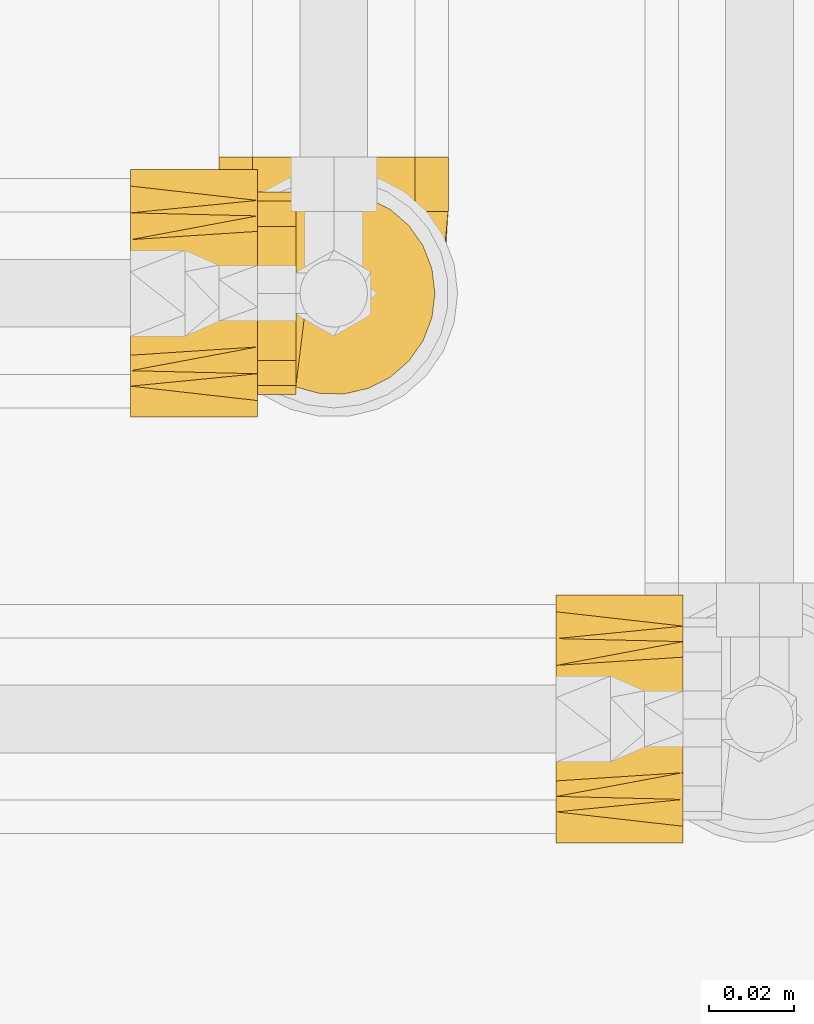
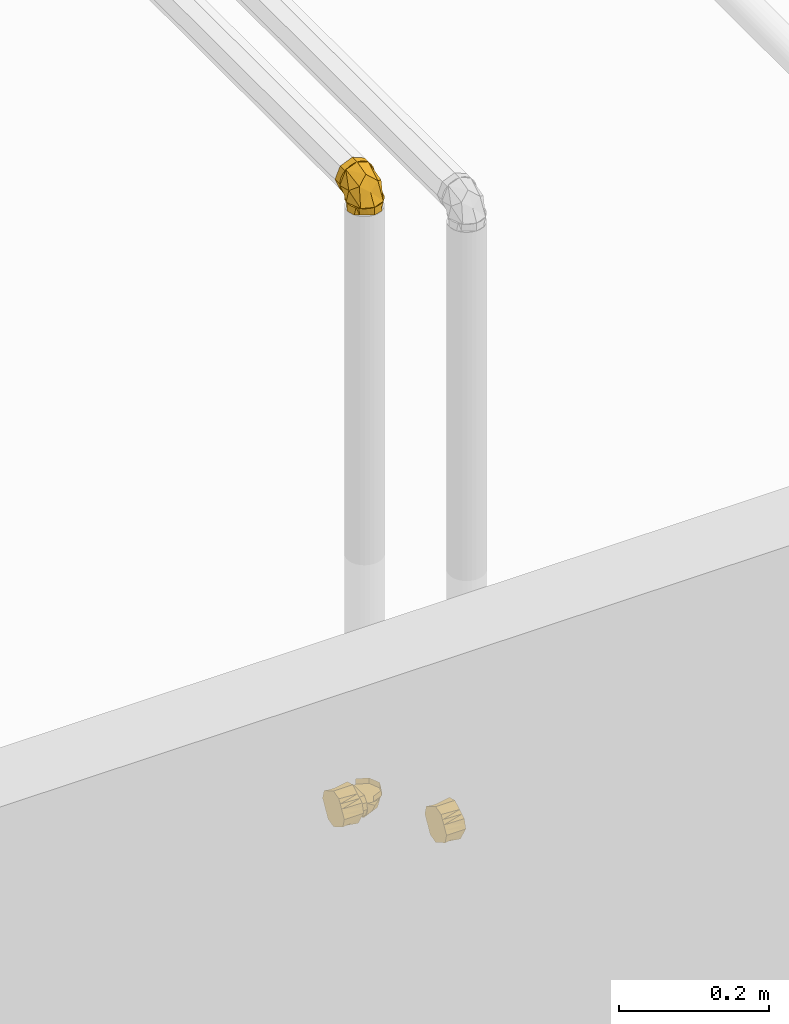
# One storey, part 346 of 652: 4 coverings.
"""IFC2X3 building model written with IfcOpenShell, lengths in millimetres."""

from ifc_helpers import new_model, entity, si_unit, converted_unit, direction, frame, origin, place, context, subcontext, project, spatial, face_set, faceted_brep, surface_model, material, type_object, element, save


model = new_model("IFC2X3")

# Units and contexts
model_context = context("Model", 3, precision=0.01, world=frame((0.0, 0.0, 308426.39999999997)), true_north=direction((6.123233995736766e-17, 1.0)))
plan_context = context("Plan", 3, precision=0.01, world=frame((0.0, 0.0, 308426.39999999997)), true_north=direction((6.123233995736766e-17, 1.0)))
body_context = subcontext(model_context, "Body", "Model", "MODEL_VIEW")
ifc_project = project(units=[si_unit("LENGTHUNIT", "METRE", prefix="MILLI"), si_unit("AREAUNIT", "SQUARE_METRE"), si_unit("VOLUMEUNIT", "CUBIC_METRE"), converted_unit("PLANEANGLEUNIT", "DEGREE", entity("IfcPlaneAngleMeasure", 0.017453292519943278), si_unit("PLANEANGLEUNIT", "RADIAN"), dimensions=[0, 0, 0, 0, 0, 0, 0])], contexts=[model_context, plan_context])

# Site, building, storey
site_placement = place(None, origin())
site = spatial("IfcSite", under=ifc_project, at=site_placement, Name="Default", CompositionType="ELEMENT")
building_placement = place(site_placement, origin())
building = spatial("IfcBuilding", under=site, at=building_placement, CompositionType="ELEMENT")
storey_placement = place(building_placement, frame((0.0, 0.0, 1730.6999999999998)))
storey = spatial("IfcBuildingStorey", under=building, at=storey_placement, Name="EG_Produktion_FFB", CompositionType="ELEMENT", Elevation=1730.6999999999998)

# Coverings
ifc_material = material(Name="Dämmung - Armaflex-Schlauch")
covering_type = type_object("IfcCoveringType", Name="Rohrdämmung außen:Armaflex-Schlauch", PredefinedType="INSULATION")
covering_1_placement = place(storey_placement, frame((47171.46722776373, 31973.50378550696, 3668.0162499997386)))
element("IfcCovering", 1, at=covering_1_placement, inside=storey, type_object=covering_type, material=ifc_material, Name="Rohrdämmung außen:Armaflex-Schlauch", ObjectType="Rohrdämmung außen:Armaflex-Schlauch", PredefinedType="INSULATION", context=body_context, shape_type="SurfaceModel", body=[
    surface_model("IfcFaceBasedSurfaceModel", [(9.65642195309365, 47.75027223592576, 12.766249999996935), (51.38658262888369, 47.75027223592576, 17.724287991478), (54.0915642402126, 47.75027223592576, 23.47627931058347), (55.37345654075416, 47.75027223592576, 29.70195853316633), (55.16088498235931, 47.7502722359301, 36.05468574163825), (53.465685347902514, 47.7502722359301, 42.180747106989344), (50.38224474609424, 47.7502722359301, 47.739049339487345), (46.08224622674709, 47.7502722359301, 52.42011143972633), (40.8051096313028, 47.7502722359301, 55.96329630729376), (34.844660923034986, 47.7502722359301, 58.17132276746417), (28.532772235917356, 47.7502722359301, 58.92124999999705), (22.220883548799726, 47.7502722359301, 58.17132276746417), (16.26043484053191, 47.7502722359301, 55.96329630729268), (10.983298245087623, 47.7502722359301, 52.42011143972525), (6.683299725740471, 47.7502722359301, 47.739049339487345), (3.599859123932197, 47.7502722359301, 42.180747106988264), (1.904659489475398, 47.7502722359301, 36.05468574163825), (1.6920879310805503, 47.75027223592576, 29.70195853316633), (2.973980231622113, 47.75027223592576, 23.47627931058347), (5.678961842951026, 47.75027223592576, 17.72428799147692), (47.409122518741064, 47.75027223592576, 12.766249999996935), (51.38658262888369, 42.79223424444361, 12.766249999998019), (54.0915642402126, 37.04024292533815, 12.766249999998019), (55.37345654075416, 30.81456370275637, 12.7662499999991), (55.16088498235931, 24.461836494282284, 12.766250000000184), (53.465685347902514, 18.33577512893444, 12.766250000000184), (50.38224474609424, 12.77747289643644, 12.766250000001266), (46.08224622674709, 8.09641079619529, 12.766250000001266), (40.8051096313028, 4.553225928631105, 12.76625000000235), (34.844660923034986, 2.3451994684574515, 12.76625000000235), (28.532772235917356, 1.5952722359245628, 12.76625000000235), (22.220883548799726, 2.3451994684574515, 12.76625000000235), (16.26043484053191, 4.553225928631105, 12.76625000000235), (10.983298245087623, 8.09641079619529, 12.766250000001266), (6.683299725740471, 12.77747289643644, 12.766250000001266), (3.599859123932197, 18.33577512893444, 12.766250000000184), (1.904659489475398, 24.461836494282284, 12.766250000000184), (1.6920879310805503, 30.81456370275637, 12.7662499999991), (2.973980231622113, 37.04024292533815, 12.766249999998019), (5.678961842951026, 42.79223424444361, 12.766249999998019), (2.276595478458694, 37.80739613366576, 21.44709533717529), (28.530806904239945, 24.67331410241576, 52.737627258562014), (6.336812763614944, 47.75097523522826, 41.06101440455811), (3.602095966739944, 26.949919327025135, 33.56554168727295), (14.285164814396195, 17.331901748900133, 41.841780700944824), (28.530806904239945, 12.139195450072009, 31.03023132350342), (6.336812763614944, 19.45502796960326, 12.766229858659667), (42.78109987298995, 17.331901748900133, 41.841780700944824), (53.46416872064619, 26.95224476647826, 33.56554168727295), (54.78966920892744, 37.80739613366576, 21.44709533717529), (50.729451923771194, 19.45502796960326, 12.766229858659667), (50.729451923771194, 47.75097523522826, 41.06101440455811), (28.532772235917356, 60.51652223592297, 58.92125000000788), (33.29469446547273, 60.51652223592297, 56.94879722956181), (38.056616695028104, 60.51652223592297, 54.97634445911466), (42.818538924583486, 60.516522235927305, 53.0038916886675), (47.5804611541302, 60.51652223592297, 51.03143891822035), (49.55291392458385, 60.516522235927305, 46.26951668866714), (51.525366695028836, 60.516522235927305, 41.50759445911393), (53.497819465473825, 60.516522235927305, 36.74567222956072), (55.47027223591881, 60.516522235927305, 31.98375000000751), (53.497819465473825, 60.516522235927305, 27.2218277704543), (51.525366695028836, 60.51652223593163, 22.45990554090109), (49.552913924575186, 60.51652223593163, 17.69798331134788), (47.5804611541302, 60.51652223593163, 12.936061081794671), (42.818538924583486, 60.51652223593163, 10.963608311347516), (38.056616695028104, 60.51652223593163, 8.991155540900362), (33.29469446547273, 60.51652223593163, 7.018702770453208), (28.532772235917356, 60.51652223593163, 5.046250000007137), (23.77085000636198, 60.51652223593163, 7.018702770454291), (19.008927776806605, 60.51652223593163, 8.991155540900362), (14.247005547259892, 60.516522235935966, 10.963608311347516), (9.485083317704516, 60.51652223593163, 12.936061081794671), (7.512630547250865, 60.51652223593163, 17.69798331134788), (5.540177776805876, 60.51652223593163, 22.45990554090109), (3.567725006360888, 60.516522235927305, 27.2218277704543), (1.5952722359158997, 60.516522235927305, 31.98375000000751), (3.567725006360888, 60.516522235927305, 36.74567222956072), (5.540177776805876, 60.516522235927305, 41.50759445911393), (7.512630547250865, 60.51652223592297, 46.26951668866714), (9.485083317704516, 60.51652223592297, 51.03143891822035), (14.247005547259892, 60.516522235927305, 53.0038916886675), (19.008927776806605, 60.51652223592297, 54.97634445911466), (23.77085000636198, 60.51652223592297, 56.94879722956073), (28.532772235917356, 47.750272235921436, 58.92125000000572), (23.77085000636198, 47.750272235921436, 56.94879722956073), (19.008927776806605, 47.750272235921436, 54.97634445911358), (14.247005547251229, 47.750272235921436, 53.00389168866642), (9.485083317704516, 47.750272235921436, 51.031438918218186), (7.095738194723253, 47.750272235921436, 45.26304951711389), (4.706393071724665, 47.750272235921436, 39.494660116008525), (1.5952722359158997, 47.75027223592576, 31.983750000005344), (3.567725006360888, 47.7502722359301, 27.221827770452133), (5.540177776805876, 47.7502722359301, 22.459905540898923), (7.512630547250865, 47.75027223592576, 17.697983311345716), (9.485083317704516, 47.7502722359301, 12.936061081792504), (15.253472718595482, 47.7502722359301, 10.546715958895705), (21.021862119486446, 47.7502722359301, 8.157370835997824), (28.532772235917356, 47.7502722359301, 5.046250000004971), (33.29469446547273, 47.7502722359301, 7.018702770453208), (38.056616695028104, 47.7502722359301, 8.991155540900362), (42.81853892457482, 47.7502722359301, 10.963608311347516), (47.5804611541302, 47.7502722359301, 12.936061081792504), (49.96980627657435, 47.7502722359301, 18.704450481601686), (52.359151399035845, 47.7502722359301, 24.472839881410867), (55.47027223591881, 47.75027223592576, 31.983750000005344), (53.497819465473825, 47.750272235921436, 36.74567222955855), (51.525366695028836, 47.750272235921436, 41.507594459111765), (49.552913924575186, 47.750272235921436, 46.26951668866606), (47.5804611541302, 47.750272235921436, 51.031438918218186), (41.81207177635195, 47.750272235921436, 53.420784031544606), (36.0436823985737, 47.750272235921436, 55.81012914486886), (28.532772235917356, 1.5952722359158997, 0.0), (22.700632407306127, 4.962459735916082, 0.0), (16.868492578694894, 8.329647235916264, 0.0), (11.036352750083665, 11.696834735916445, 0.0), (5.204212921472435, 15.064022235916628, 0.0), (3.3997425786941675, 21.79839723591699, 0.0), (1.5952722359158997, 28.532772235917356, 0.0), (4.962459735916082, 34.36491206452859, 0.0), (8.329647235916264, 40.197051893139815, 0.0), (11.696834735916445, 46.02919172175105, 0.0), (15.064022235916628, 51.86133155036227, 0.0), (21.79839723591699, 53.66580189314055, 0.0), (28.532772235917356, 55.47027223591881, 0.0), (34.36491206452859, 52.10308473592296, 0.0), (40.197051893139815, 48.73589723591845, 0.0), (46.02919172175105, 45.3687097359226, 0.0), (51.86133155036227, 42.00152223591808, 0.0), (53.66580189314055, 35.26714723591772, 0.0), (55.47027223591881, 28.532772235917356, 0.0), (52.10308473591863, 22.700632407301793, 0.0), (48.73589723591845, 16.868492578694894, 0.0), (45.368709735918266, 11.036352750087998, 0.0), (42.00152223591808, 5.204212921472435, 0.0), (35.26714723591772, 3.3997425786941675, 0.0), (28.532772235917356, 1.5952722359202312, 12.7662499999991), (33.29469446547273, 3.5677250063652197, 12.7662499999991), (38.056616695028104, 5.540177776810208, 12.7662499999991), (42.81853892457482, 7.512630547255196, 12.7662499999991), (47.5804611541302, 9.485083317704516, 12.7662499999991), (49.55291392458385, 14.24700554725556, 12.7662499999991), (51.525366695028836, 19.008927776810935, 12.7662499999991), (53.497819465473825, 23.770850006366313, 12.7662499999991), (55.47027223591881, 28.532772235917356, 12.7662499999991), (53.497819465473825, 33.29469446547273, 12.7662499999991), (51.525366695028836, 38.05661669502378, 12.7662499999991), (49.55291392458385, 42.81853892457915, 12.7662499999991), (47.5804611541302, 47.5804611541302, 12.7662499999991), (42.81853892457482, 49.552913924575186, 12.7662499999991), (38.056616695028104, 51.5253666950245, 12.7662499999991), (33.29469446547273, 53.497819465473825, 12.7662499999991), (28.532772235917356, 55.47027223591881, 12.7662499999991), (23.77085000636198, 53.497819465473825, 12.7662499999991), (19.008927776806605, 51.5253666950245, 12.7662499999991), (14.247005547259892, 49.552913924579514, 12.7662499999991), (9.485083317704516, 47.5804611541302, 12.7662499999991), (7.512630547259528, 42.81853892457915, 12.7662499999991), (5.540177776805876, 38.05661669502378, 12.7662499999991), (3.567725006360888, 33.2946944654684, 12.7662499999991), (1.5952722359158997, 28.532772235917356, 12.7662499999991), (3.567725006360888, 23.770850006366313, 12.7662499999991), (5.540177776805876, 19.008927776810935, 12.7662499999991), (7.512630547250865, 14.24700554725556, 12.7662499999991), (9.485083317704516, 9.485083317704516, 12.7662499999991), (14.247005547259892, 7.512630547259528, 12.7662499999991), (19.008927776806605, 5.540177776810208, 12.7662499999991), (23.77085000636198, 3.567725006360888, 12.7662499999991)], [face_set([[[0, 1, 2, 3, 4, 5, 6, 7, 8, 9, 10, 11, 12, 13, 14, 15, 16, 17, 18, 19]], [[20, 21, 22, 23, 24, 25, 26, 27, 28, 29, 30, 31, 32, 33, 34, 35, 36, 37, 38, 39]], [[0, 40, 17]], [[10, 13, 41]], [[42, 17, 43, 13]], [[40, 43, 17]], [[37, 40, 0]], [[13, 43, 44]], [[45, 41, 44]], [[13, 44, 41]], [[33, 30, 45]], [[45, 44, 33]], [[43, 33, 44]], [[43, 37, 46, 33]], [[37, 43, 40]], [[7, 10, 41]], [[27, 47, 45]], [[45, 30, 27]], [[48, 47, 27]], [[49, 48, 23]], [[50, 23, 48, 27]], [[45, 47, 41]], [[20, 49, 23]], [[47, 48, 7]], [[3, 49, 20]], [[41, 47, 7]], [[48, 3, 51, 7]], [[3, 48, 49]]]), face_set([[[52, 53, 54, 55, 56, 57, 58, 59, 60, 61, 62, 63, 64, 65, 66, 67, 68, 69, 70, 71, 72, 73, 74, 75, 76, 77, 78, 79, 80, 81, 82, 83]], [[84, 85, 86, 87, 88, 89, 90, 91, 92, 93, 94, 95, 96, 97, 98, 99, 100, 101, 102, 103, 104, 105, 106, 107, 108, 109, 110, 111]], [[111, 110, 109, 56, 55, 54, 53, 52, 84]], [[56, 109, 108, 107, 106, 105, 60, 59, 58, 57]], [[104, 103, 102, 64, 63, 62, 61, 60, 105]], [[64, 102, 101, 100, 99, 98, 68, 67, 66, 65]], [[97, 96, 95, 72, 71, 70, 69, 68, 98]], [[72, 95, 94, 93, 92, 91, 76, 75, 74, 73]], [[90, 89, 88, 80, 79, 78, 77, 76, 91]], [[80, 88, 87, 86, 85, 84, 52, 83, 82, 81]]]), face_set([[[112, 113, 114, 115, 116, 117, 118, 119, 120, 121, 122, 123, 124, 125, 126, 127, 128, 129, 130, 131, 132, 133, 134, 135]], [[136, 137, 138, 139, 140, 141, 142, 143, 144, 145, 146, 147, 148, 149, 150, 151, 152, 153, 154, 155, 156, 157, 158, 159, 160, 161, 162, 163, 164, 165, 166, 167]], [[155, 121, 156]], [[118, 159, 119]], [[159, 158, 119]], [[123, 154, 153]], [[153, 152, 124]], [[121, 155, 122]], [[120, 158, 157]], [[118, 160, 159]], [[158, 120, 119]], [[124, 123, 153]], [[157, 156, 121]], [[155, 154, 122]], [[123, 122, 154]], [[120, 157, 121]], [[163, 115, 164]], [[112, 167, 113]], [[167, 166, 113]], [[117, 162, 161]], [[161, 160, 118]], [[115, 163, 116]], [[114, 166, 165]], [[112, 136, 167]], [[166, 114, 113]], [[118, 117, 161]], [[165, 164, 115]], [[163, 162, 116]], [[117, 116, 162]], [[114, 165, 115]], [[139, 133, 140]], [[130, 143, 131]], [[143, 142, 131]], [[135, 138, 137]], [[137, 136, 112]], [[133, 139, 134]], [[132, 142, 141]], [[130, 144, 143]], [[142, 132, 131]], [[112, 135, 137]], [[141, 140, 133]], [[139, 138, 134]], [[135, 134, 138]], [[132, 141, 133]], [[147, 127, 148]], [[124, 151, 125]], [[151, 150, 125]], [[129, 146, 145]], [[145, 144, 130]], [[127, 147, 128]], [[126, 150, 149]], [[124, 152, 151]], [[150, 126, 125]], [[130, 129, 145]], [[149, 148, 127]], [[147, 146, 128]], [[129, 128, 146]], [[126, 149, 127]]])]),
])
covering_2_placement = place(storey_placement, frame((47180.61107910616, 31976.678785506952, 2674.6422277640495)))
element("IfcCovering", 2, at=covering_2_placement, inside=storey, type_object=covering_type, material=ifc_material, Name="Rohrdämmung außen:Armaflex-Schlauch", ObjectType="Rohrdämmung außen:Armaflex-Schlauch", PredefinedType="INSULATION", context=body_context, shape_type="SurfaceModel", body=[
    surface_model("IfcFaceBasedSurfaceModel", [(10.458420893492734, 3.3372686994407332, 34.28827223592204), (16.054796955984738, 1.8303409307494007, 34.28827223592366), (21.84951324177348, 1.7230119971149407, 34.288272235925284), (27.497853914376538, 3.0216666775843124, 34.288272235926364), (32.66381072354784, 5.649050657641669, 34.28827223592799), (37.04007144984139, 9.448866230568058, 34.28827223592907), (40.36630128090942, 14.19507012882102, 34.28827223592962), (42.44462959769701, 19.605320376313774, 34.2882722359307), (43.151420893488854, 25.357772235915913, 34.2882722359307), (42.44462959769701, 31.11022409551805, 34.2882722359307), (40.36630128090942, 36.520474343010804, 34.28827223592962), (37.04007144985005, 41.26667824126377, 34.28827223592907), (32.66381072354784, 45.06649381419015, 34.28827223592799), (27.497853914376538, 47.69387779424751, 34.288272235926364), (21.84951324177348, 48.99253247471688, 34.288272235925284), (16.054796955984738, 48.885203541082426, 34.28827223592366), (10.458420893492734, 47.37827577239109, 34.28827223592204), (10.458420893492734, 48.885203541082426, 28.691896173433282), (10.458420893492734, 48.99253247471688, 22.897179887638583), (10.458420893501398, 47.69387779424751, 17.248839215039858), (10.458420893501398, 45.06649381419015, 12.08288240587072), (10.458420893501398, 41.26667824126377, 7.706621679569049), (10.458420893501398, 36.520474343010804, 4.3803918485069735), (10.458420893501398, 31.11022409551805, 2.3020635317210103), (10.458420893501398, 25.357772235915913, 1.5952722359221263), (10.458420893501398, 19.605320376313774, 2.3020635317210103), (10.458420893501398, 14.19507012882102, 4.3803918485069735), (10.458420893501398, 9.448866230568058, 7.706621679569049), (10.458420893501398, 5.649050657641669, 12.08288240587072), (10.458420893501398, 3.0216666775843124, 17.248839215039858), (10.458420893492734, 1.7230119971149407, 22.897179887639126), (10.458420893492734, 1.8303409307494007, 28.691896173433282), (18.582353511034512, 2.9994432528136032, 19.381296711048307), (30.595573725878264, 9.49904652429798, 16.867205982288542), (10.457268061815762, 4.480748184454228, 23.314486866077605), (37.96721679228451, 15.617277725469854, 34.28823564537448), (38.771818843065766, 25.358543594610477, 17.94184968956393), (10.457268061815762, 15.503331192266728, 6.839039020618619), (23.526237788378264, 25.358543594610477, 9.140061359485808), (22.521647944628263, 2.1390306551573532, 27.208144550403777), (21.558916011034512, 4.492375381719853, 34.28823564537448), (18.582353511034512, 47.717643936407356, 19.381296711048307), (22.521647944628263, 48.57573109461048, 27.208144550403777), (30.595573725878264, 41.21571522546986, 16.867205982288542), (37.96721679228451, 35.09748402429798, 34.28823564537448), (10.457268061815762, 46.23633900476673, 23.314486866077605), (10.457268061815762, 35.09748402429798, 6.7782869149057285), (24.614543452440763, 25.358543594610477, 9.768511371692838), (21.558916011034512, 46.22238636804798, 34.28823564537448), (19.386955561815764, 1.5948778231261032, 43.30803392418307), (19.386955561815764, 1.5948778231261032, 34.28823564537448), (36.190581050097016, 8.554918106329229, 34.28823564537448), (36.190581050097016, 8.554918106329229, 43.30803392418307), (43.15294677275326, 25.358543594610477, 34.28823564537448), (43.15294677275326, 25.358543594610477, 43.30803392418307), (36.190581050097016, 42.159843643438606, 34.28823564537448), (36.190581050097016, 42.159843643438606, 43.30803392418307), (19.386955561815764, 49.11988392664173, 34.28823564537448), (19.386955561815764, 49.11988392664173, 43.30803392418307), (1.4386708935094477, 46.14995973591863, 20.213040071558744), (1.4386708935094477, 43.179647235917, 15.06830790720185), (1.4386708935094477, 40.20933473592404, 9.923575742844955), (1.4386708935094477, 37.239022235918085, 4.7788435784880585), (1.4386708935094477, 31.298397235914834, 3.1870579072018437), (1.4386708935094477, 25.357772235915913, 1.595272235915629), (1.4386708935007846, 20.21304007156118, 4.565584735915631), (1.4386708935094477, 15.06830790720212, 7.535897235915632), (1.4386708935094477, 9.92357574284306, 10.506209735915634), (1.4386708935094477, 4.778843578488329, 13.476522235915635), (1.4386708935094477, 3.1870579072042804, 19.41714723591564), (1.4386708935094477, 1.5952722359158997, 25.35777223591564), (1.4386708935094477, 2.6431209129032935, 30.23645211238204), (1.4386708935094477, 3.690969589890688, 35.11513198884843), (1.4386708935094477, 6.649688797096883, 39.13327644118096), (1.4386708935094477, 9.608408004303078, 43.15142089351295), (1.4386708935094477, 41.10713646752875, 43.15142089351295), (1.4386708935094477, 44.06585567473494, 39.13327644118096), (1.4386708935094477, 47.024574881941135, 35.11513198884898), (1.4386708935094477, 48.07242355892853, 30.23645211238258), (1.4386708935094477, 49.12027223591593, 25.35777223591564), (10.458420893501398, 42.16039712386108, 8.55514734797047), (10.458420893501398, 43.90036590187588, 12.755803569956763), (10.458420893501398, 45.64033467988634, 16.956459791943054), (10.458420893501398, 47.38030345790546, 21.15711601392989), (10.458420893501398, 49.12027223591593, 25.35777223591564), (10.458420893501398, 48.07242355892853, 30.23645211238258), (10.458420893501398, 47.02457488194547, 35.11513198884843), (10.458420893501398, 43.985875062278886, 39.241895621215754), (10.458420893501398, 41.10713646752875, 43.15142089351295), (10.458420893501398, 9.60840800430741, 43.15142089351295), (10.458420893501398, 6.649688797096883, 39.13327644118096), (10.458420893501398, 3.690969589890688, 35.11513198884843), (10.458420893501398, 2.6147952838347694, 30.10457078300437), (10.458420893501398, 1.5952722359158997, 25.35777223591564), (10.458420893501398, 3.3352410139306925, 21.157116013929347), (10.458420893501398, 5.075209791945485, 16.956459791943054), (10.458420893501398, 6.815178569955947, 12.755803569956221), (10.458420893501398, 8.55514734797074, 8.555147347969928), (10.458420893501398, 12.755803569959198, 6.8151785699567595), (10.458420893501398, 16.956459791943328, 5.075209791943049), (10.458420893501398, 21.157116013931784, 3.335241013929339), (10.458420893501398, 25.357772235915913, 1.595272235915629), (10.458420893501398, 29.55842845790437, 3.335241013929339), (10.458420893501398, 33.759084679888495, 5.075209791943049), (10.458420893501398, 37.95974090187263, 6.8151785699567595)], [face_set([[[0, 1, 2, 3, 4, 5, 6, 7, 8, 9, 10, 11, 12, 13, 14, 15]], [[16, 17, 18, 19, 20, 21, 22, 23, 24, 25, 26, 27, 28, 29, 30, 31]], [[32, 28, 33]], [[32, 34, 28]], [[33, 35, 4]], [[35, 33, 36]], [[36, 8, 35]], [[33, 37, 38]], [[39, 4, 40]], [[32, 33, 39]], [[34, 32, 0]], [[4, 39, 33]], [[38, 36, 33]], [[0, 32, 39]], [[33, 28, 37]], [[37, 24, 38]], [[0, 39, 40]], [[41, 16, 42]], [[43, 44, 36]], [[20, 45, 41]], [[46, 43, 47]], [[44, 8, 36]], [[12, 43, 42]], [[44, 43, 12]], [[42, 16, 48]], [[20, 43, 46]], [[16, 41, 45]], [[43, 41, 42]], [[43, 36, 47]], [[47, 24, 46]], [[20, 41, 43]], [[48, 12, 42]]]), face_set([[[49, 50, 51, 52]], [[53, 54, 52, 51]], [[54, 53, 55, 56]], [[57, 58, 56, 55]]]), face_set([[[59, 60, 61, 62, 63, 64, 65, 66, 67, 68, 69, 70, 71, 72, 73, 74, 75, 76, 77, 78, 79]], [[80, 81, 82, 83, 84, 85, 86, 87, 88, 89, 90, 91, 92, 93, 94, 95, 96, 97, 98, 99, 100, 101, 102, 103, 104]], [[75, 74, 89, 88]], [[71, 70, 93, 92, 91, 72]], [[73, 72, 91, 90, 89, 74]], [[96, 67, 97]], [[64, 100, 65]], [[100, 99, 65]], [[69, 95, 94]], [[94, 93, 70]], [[67, 96, 68]], [[66, 99, 98]], [[64, 101, 100]], [[99, 66, 65]], [[70, 69, 94]], [[98, 97, 67]], [[96, 95, 68]], [[69, 68, 95]], [[66, 98, 67]], [[104, 61, 80]], [[79, 83, 59]], [[83, 82, 59]], [[63, 103, 102]], [[102, 101, 64]], [[61, 104, 62]], [[60, 82, 81]], [[79, 84, 83]], [[82, 60, 59]], [[64, 63, 102]], [[81, 80, 61]], [[104, 103, 62]], [[63, 62, 103]], [[60, 81, 61]], [[76, 75, 88, 87, 86, 77]], [[78, 77, 86, 85, 84, 79]]])]),
])
covering_3_placement = place(storey_placement, frame((47252.248749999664, 31871.35128550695, 2730.6852722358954)))
element("IfcCovering", 3, at=covering_3_placement, inside=storey, type_object=covering_type, material=ifc_material, Name="Rohrdämmung außen:Armaflex-Schlauch", ObjectType="Rohrdämmung außen:Armaflex-Schlauch", PredefinedType="INSULATION", context=body_context, shape_type="Brep", body=[
    faceted_brep([(0.0, 59.7752722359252, -30.685272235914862), (0.0, 56.13902223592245, -36.98344198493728), (0.0, 52.50277223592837, -43.28161173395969), (0.0, 48.86652223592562, -49.579781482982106), (0.0, 45.2302722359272, -55.87795123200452), (0.0, 37.95777223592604, -57.82661173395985), (0.0, 30.68527223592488, -59.77527223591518), (0.0, 24.387102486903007, -56.13902223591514), (0.0, 18.088932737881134, -52.50277223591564), (0.0, 11.790762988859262, -48.8665222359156), (0.0, 5.49259323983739, -45.230272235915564), (0.0, 3.543932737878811, -37.957772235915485), (0.0, 1.5952722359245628, -30.685272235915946), (0.0, 5.23152223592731, -24.387102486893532), (0.0, 8.867772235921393, -18.08893273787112), (0.0, 12.504022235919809, -11.790762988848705), (0.0, 16.140272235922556, -5.492593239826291), (0.0, 23.41277223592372, -3.54393273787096), (0.0, 30.68527223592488, -1.595272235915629), (0.0, 36.983441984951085, -5.231522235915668), (0.0, 43.281611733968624, -8.867772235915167), (0.0, 49.5797814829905, -12.504022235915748), (0.0, 55.87795123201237, -16.140272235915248), (0.0, 57.826611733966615, -23.412772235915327), (29.801000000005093, 59.77527223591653, -30.685272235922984), (29.80099999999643, 56.139022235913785, -24.38710248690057), (29.80099999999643, 52.50277223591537, -18.088932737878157), (29.80099999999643, 48.86652223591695, -11.790762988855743), (29.801000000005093, 45.23027223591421, -5.4925932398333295), (29.801000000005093, 37.95777223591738, -3.5439327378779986), (29.801000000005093, 30.685272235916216, -1.5952722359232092), (29.80099999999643, 24.387102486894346, -5.231522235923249), (29.80099999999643, 18.088932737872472, -8.867772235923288), (29.80099999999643, 11.7907629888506, -12.504022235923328), (29.801000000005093, 5.492593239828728, -16.14027223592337), (29.801000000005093, 3.543932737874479, -23.412772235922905), (29.801000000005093, 1.5952722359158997, -30.685272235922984), (29.801000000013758, 5.231522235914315, -36.9834419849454), (29.801000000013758, 8.867772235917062, -43.281611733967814), (29.801000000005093, 12.504022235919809, -49.57978148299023), (29.801000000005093, 16.140272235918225, -55.87795123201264), (29.801000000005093, 23.412772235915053, -57.82661173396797), (29.801000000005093, 30.685272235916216, -59.77527223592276), (29.801000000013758, 36.98344198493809, -56.139022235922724), (29.801000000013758, 43.28161173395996, -52.502772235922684), (29.801000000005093, 49.579781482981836, -48.866522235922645), (29.801000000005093, 55.8779512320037, -45.230272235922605), (29.801000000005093, 57.826611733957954, -37.957772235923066)], [[[0, 1, 2, 3, 4, 5, 6, 7, 8, 9, 10, 11, 12, 13, 14, 15, 16, 17, 18, 19, 20, 21, 22, 23]], [[24, 25, 26, 27, 28, 29, 30, 31, 32, 33, 34, 35, 36, 37, 38, 39, 40, 41, 42, 43, 44, 45, 46, 47]], [[36, 13, 12]], [[30, 17, 31]], [[16, 32, 31]], [[35, 14, 13]], [[17, 16, 31]], [[30, 18, 17]], [[13, 36, 35]], [[15, 14, 33]], [[35, 34, 14]], [[32, 16, 15]], [[14, 34, 33]], [[32, 15, 33]], [[30, 19, 18]], [[24, 23, 25]], [[22, 26, 25]], [[29, 20, 19]], [[23, 22, 25]], [[24, 0, 23]], [[19, 30, 29]], [[21, 20, 27]], [[29, 28, 20]], [[26, 22, 21]], [[20, 28, 27]], [[26, 21, 27]], [[24, 1, 0]], [[42, 5, 43]], [[4, 44, 43]], [[47, 2, 1]], [[5, 4, 43]], [[42, 6, 5]], [[1, 24, 47]], [[3, 2, 45]], [[47, 46, 2]], [[44, 4, 3]], [[2, 46, 45]], [[44, 3, 45]], [[42, 7, 6]], [[36, 11, 37]], [[10, 38, 37]], [[41, 8, 7]], [[11, 10, 37]], [[36, 12, 11]], [[7, 42, 41]], [[9, 8, 39]], [[41, 40, 8]], [[38, 10, 9]], [[8, 40, 39]], [[38, 9, 39]]]),
])
covering_4_placement = place(storey_placement, frame((47152.24874999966, 31971.351285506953, 2730.685272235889)))
element("IfcCovering", 4, at=covering_4_placement, inside=storey, type_object=covering_type, material=ifc_material, Name="Rohrdämmung außen:Armaflex-Schlauch", ObjectType="Rohrdämmung außen:Armaflex-Schlauch", PredefinedType="INSULATION", context=body_context, shape_type="Brep", body=[
    faceted_brep([(0.0, 59.7752722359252, -30.685272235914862), (0.0, 56.13902223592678, -36.98344198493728), (0.0, 52.50277223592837, -43.28161173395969), (0.0, 48.86652223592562, -49.579781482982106), (0.0, 45.2302722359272, -55.87795123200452), (0.0, 37.95777223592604, -57.82661173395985), (0.0, 30.68527223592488, -59.77527223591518), (0.0, 24.387102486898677, -56.13902223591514), (0.0, 18.088932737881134, -52.50277223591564), (0.0, 11.790762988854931, -48.8665222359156), (0.0, 5.49259323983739, -45.230272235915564), (0.0, 3.543932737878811, -37.957772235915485), (0.0, 1.5952722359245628, -30.685272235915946), (0.0, 5.231522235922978, -24.387102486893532), (0.0, 8.867772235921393, -18.08893273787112), (0.0, 12.50402223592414, -11.790762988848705), (0.0, 16.140272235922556, -5.492593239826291), (0.0, 23.41277223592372, -3.54393273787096), (0.0, 30.68527223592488, -1.595272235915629), (0.0, 36.98344198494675, -5.231522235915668), (0.0, 43.281611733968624, -8.867772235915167), (0.0, 49.5797814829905, -12.504022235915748), (0.0, 55.87795123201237, -16.140272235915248), (0.0, 57.826611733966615, -23.412772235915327), (29.801000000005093, 59.77527223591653, -30.685272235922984), (29.80099999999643, 56.13902223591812, -24.38710248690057), (29.801000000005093, 52.50277223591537, -18.088932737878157), (29.801000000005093, 48.866522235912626, -11.790762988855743), (29.801000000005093, 45.23027223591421, -5.4925932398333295), (29.801000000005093, 37.95777223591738, -3.5439327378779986), (29.801000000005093, 30.685272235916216, -1.5952722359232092), (29.80099999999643, 24.387102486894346, -5.231522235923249), (29.801000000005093, 18.088932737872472, -8.867772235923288), (29.801000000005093, 11.7907629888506, -12.504022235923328), (29.801000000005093, 5.492593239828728, -16.14027223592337), (29.801000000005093, 3.543932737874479, -23.412772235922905), (29.801000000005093, 1.5952722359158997, -30.685272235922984), (29.801000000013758, 5.231522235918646, -36.9834419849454), (29.801000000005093, 8.867772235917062, -43.281611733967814), (29.801000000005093, 12.504022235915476, -49.57978148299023), (29.801000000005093, 16.140272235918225, -55.87795123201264), (29.801000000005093, 23.412772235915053, -57.82661173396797), (29.801000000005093, 30.685272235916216, -59.77527223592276), (29.801000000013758, 36.98344198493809, -56.139022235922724), (29.801000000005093, 43.28161173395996, -52.502772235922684), (29.801000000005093, 49.579781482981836, -48.866522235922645), (29.801000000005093, 55.8779512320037, -45.230272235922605), (29.801000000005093, 57.826611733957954, -37.957772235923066)], [[[0, 1, 2, 3, 4, 5, 6, 7, 8, 9, 10, 11, 12, 13, 14, 15, 16, 17, 18, 19, 20, 21, 22, 23]], [[24, 25, 26, 27, 28, 29, 30, 31, 32, 33, 34, 35, 36, 37, 38, 39, 40, 41, 42, 43, 44, 45, 46, 47]], [[36, 13, 12]], [[30, 17, 31]], [[16, 32, 31]], [[35, 14, 13]], [[17, 16, 31]], [[30, 18, 17]], [[13, 36, 35]], [[15, 14, 33]], [[35, 34, 14]], [[32, 16, 15]], [[14, 34, 33]], [[32, 15, 33]], [[30, 19, 18]], [[24, 23, 25]], [[22, 26, 25]], [[29, 20, 19]], [[23, 22, 25]], [[24, 0, 23]], [[19, 30, 29]], [[21, 20, 27]], [[29, 28, 20]], [[26, 22, 21]], [[20, 28, 27]], [[26, 21, 27]], [[24, 1, 0]], [[42, 5, 43]], [[4, 44, 43]], [[47, 2, 1]], [[5, 4, 43]], [[42, 6, 5]], [[1, 24, 47]], [[3, 2, 45]], [[47, 46, 2]], [[44, 4, 3]], [[2, 46, 45]], [[44, 3, 45]], [[42, 7, 6]], [[36, 11, 37]], [[10, 38, 37]], [[41, 8, 7]], [[11, 10, 37]], [[36, 12, 11]], [[7, 42, 41]], [[9, 8, 39]], [[41, 40, 8]], [[38, 10, 9]], [[8, 40, 39]], [[38, 9, 39]]]),
])

save(model, "model.ifc")
